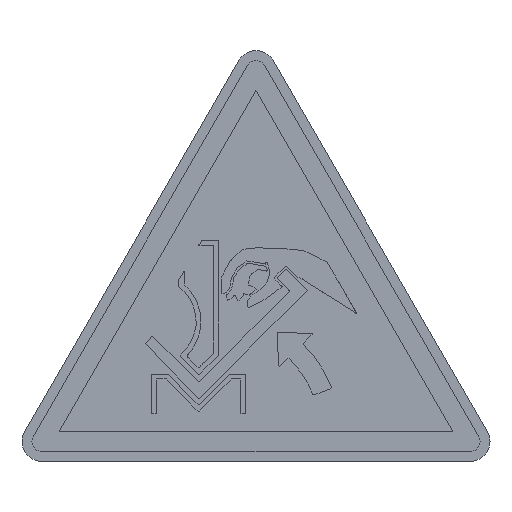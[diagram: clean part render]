
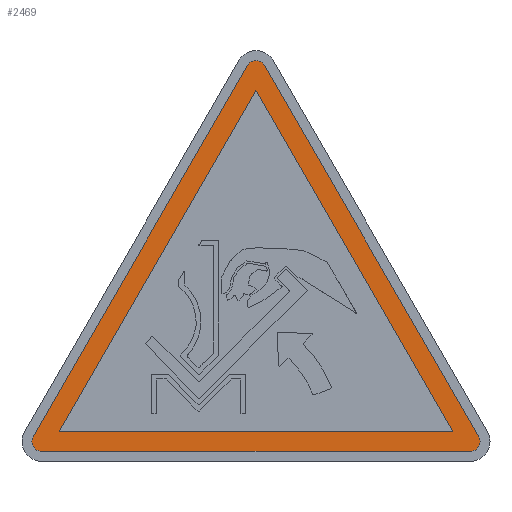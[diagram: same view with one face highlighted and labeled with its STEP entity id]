
A CAD part, top view. The second image highlights one B-rep face of the part: STEP entity #2469.
In plain terms, the highlighted planar face has unit normal (0, 0, 1).
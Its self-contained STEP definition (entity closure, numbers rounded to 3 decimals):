
#35 = EDGE_CURVE ( 'NONE', #8551, #4735, #11166, .T. ) ;
#191 = ORIENTED_EDGE ( 'NONE', *, *, #7410, .F. ) ;
#198 = DIRECTION ( 'NONE',  ( 1., 0., 0. ) ) ;
#207 = VERTEX_POINT ( 'NONE', #6396 ) ;
#376 = EDGE_CURVE ( 'NONE', #2885, #9089, #5775, .T. ) ;
#541 = EDGE_CURVE ( 'NONE', #5971, #6630, #8610, .T. ) ;
#625 = CARTESIAN_POINT ( 'NONE',  ( 22.402, 2.5, 0.22 ) ) ;
#661 = CARTESIAN_POINT ( 'NONE',  ( 21.536, 1., 0.22 ) ) ;
#754 = FACE_BOUND ( 'NONE', #7955, .T. ) ;
#785 = DIRECTION ( 'NONE',  ( 0., 0., 1. ) ) ;
#1099 = VERTEX_POINT ( 'NONE', #6174 ) ;
#1250 = CIRCLE ( 'NONE', #5741, 1. ) ;
#1371 = DIRECTION ( 'NONE',  ( -0.5, -0.866, 0. ) ) ;
#1513 = ORIENTED_EDGE ( 'NONE', *, *, #35, .F. ) ;
#1581 = VERTEX_POINT ( 'NONE', #661 ) ;
#1694 = PLANE ( 'NONE',  #4968 ) ;
#2148 = LINE ( 'NONE', #4835, #8335 ) ;
#2320 = ORIENTED_EDGE ( 'NONE', *, *, #376, .T. ) ;
#2415 = ORIENTED_EDGE ( 'NONE', *, *, #541, .T. ) ;
#2469 = ADVANCED_FACE ( 'NONE', ( #7822, #754 ), #1694, .T. ) ;
#2562 = CARTESIAN_POINT ( 'NONE',  ( 0., 37.301, 0.22 ) ) ;
#2744 = CARTESIAN_POINT ( 'NONE',  ( -21.536, 1., 0.22 ) ) ;
#2885 = VERTEX_POINT ( 'NONE', #10533 ) ;
#3080 = DIRECTION ( 'NONE',  ( -0.5, 0.866, 0. ) ) ;
#3083 = CARTESIAN_POINT ( 'NONE',  ( -0.866, 39.801, 0.22 ) ) ;
#3209 = CARTESIAN_POINT ( 'NONE',  ( -19.804, 3., 0.22 ) ) ;
#3786 = ORIENTED_EDGE ( 'NONE', *, *, #8562, .F. ) ;
#4164 = CIRCLE ( 'NONE', #7892, 1. ) ;
#4252 = CARTESIAN_POINT ( 'NONE',  ( 0., 39.301, 0.22 ) ) ;
#4364 = DIRECTION ( 'NONE',  ( 1., 0., 0. ) ) ;
#4372 = ORIENTED_EDGE ( 'NONE', *, *, #9630, .T. ) ;
#4437 = VECTOR ( 'NONE', #1371, 1000. ) ;
#4735 = VERTEX_POINT ( 'NONE', #10421 ) ;
#4835 = CARTESIAN_POINT ( 'NONE',  ( 19.804, 3., 0.22 ) ) ;
#4958 = DIRECTION ( 'NONE',  ( 1., 0., 0. ) ) ;
#4968 = AXIS2_PLACEMENT_3D ( 'NONE', #4252, #11220, #4958 ) ;
#5019 = VECTOR ( 'NONE', #9541, 1000. ) ;
#5027 = CARTESIAN_POINT ( 'NONE',  ( 0.866, 39.801, 0.22 ) ) ;
#5280 = VECTOR ( 'NONE', #8041, 1000. ) ;
#5723 = EDGE_CURVE ( 'NONE', #1099, #1581, #6116, .T. ) ;
#5741 = AXIS2_PLACEMENT_3D ( 'NONE', #8772, #785, #4364 ) ;
#5775 = LINE ( 'NONE', #3083, #10295 ) ;
#5971 = VERTEX_POINT ( 'NONE', #7135 ) ;
#6047 = CARTESIAN_POINT ( 'NONE',  ( -19.804, 3., 0.22 ) ) ;
#6116 = LINE ( 'NONE', #2744, #5280 ) ;
#6174 = CARTESIAN_POINT ( 'NONE',  ( -21.536, 1., 0.22 ) ) ;
#6256 = DIRECTION ( 'NONE',  ( 0., 0., 1. ) ) ;
#6327 = ORIENTED_EDGE ( 'NONE', *, *, #8640, .T. ) ;
#6396 = CARTESIAN_POINT ( 'NONE',  ( 0., 37.301, 0.22 ) ) ;
#6452 = ORIENTED_EDGE ( 'NONE', *, *, #5723, .T. ) ;
#6567 = CARTESIAN_POINT ( 'NONE',  ( -21.536, 2., 0.22 ) ) ;
#6630 = VERTEX_POINT ( 'NONE', #5027 ) ;
#6675 = ORIENTED_EDGE ( 'NONE', *, *, #7884, .T. ) ;
#7052 = EDGE_LOOP ( 'NONE', ( #4372, #2320, #6675, #6452, #6327, #2415 ) ) ;
#7135 = CARTESIAN_POINT ( 'NONE',  ( 22.402, 2.5, 0.22 ) ) ;
#7410 = EDGE_CURVE ( 'NONE', #4735, #207, #2148, .T. ) ;
#7822 = FACE_OUTER_BOUND ( 'NONE', #7052, .T. ) ;
#7884 = EDGE_CURVE ( 'NONE', #9089, #1099, #10153, .T. ) ;
#7892 = AXIS2_PLACEMENT_3D ( 'NONE', #9687, #6256, #198 ) ;
#7955 = EDGE_LOOP ( 'NONE', ( #1513, #3786, #191 ) ) ;
#8041 = DIRECTION ( 'NONE',  ( 1., 0., 0. ) ) ;
#8335 = VECTOR ( 'NONE', #3080, 1000. ) ;
#8514 = DIRECTION ( 'NONE',  ( 0., 0., 1. ) ) ;
#8551 = VERTEX_POINT ( 'NONE', #6047 ) ;
#8562 = EDGE_CURVE ( 'NONE', #207, #8551, #9594, .T. ) ;
#8610 = LINE ( 'NONE', #625, #5019 ) ;
#8640 = EDGE_CURVE ( 'NONE', #1581, #5971, #1250, .T. ) ;
#8772 = CARTESIAN_POINT ( 'NONE',  ( 21.536, 2., 0.22 ) ) ;
#8970 = VECTOR ( 'NONE', #10303, 1000. ) ;
#9089 = VERTEX_POINT ( 'NONE', #9794 ) ;
#9541 = DIRECTION ( 'NONE',  ( -0.5, 0.866, 0. ) ) ;
#9594 = LINE ( 'NONE', #2562, #4437 ) ;
#9630 = EDGE_CURVE ( 'NONE', #6630, #2885, #4164, .T. ) ;
#9687 = CARTESIAN_POINT ( 'NONE',  ( 0., 39.301, 0.22 ) ) ;
#9781 = AXIS2_PLACEMENT_3D ( 'NONE', #6567, #8514, #10130 ) ;
#9794 = CARTESIAN_POINT ( 'NONE',  ( -22.402, 2.5, 0.22 ) ) ;
#10130 = DIRECTION ( 'NONE',  ( 1., 0., 0. ) ) ;
#10153 = CIRCLE ( 'NONE', #9781, 1. ) ;
#10295 = VECTOR ( 'NONE', #11221, 1000. ) ;
#10303 = DIRECTION ( 'NONE',  ( 1., 0., 0. ) ) ;
#10421 = CARTESIAN_POINT ( 'NONE',  ( 19.804, 3., 0.22 ) ) ;
#10533 = CARTESIAN_POINT ( 'NONE',  ( -0.866, 39.801, 0.22 ) ) ;
#11166 = LINE ( 'NONE', #3209, #8970 ) ;
#11220 = DIRECTION ( 'NONE',  ( 0., 0., 1. ) ) ;
#11221 = DIRECTION ( 'NONE',  ( -0.5, -0.866, 0. ) ) ;
